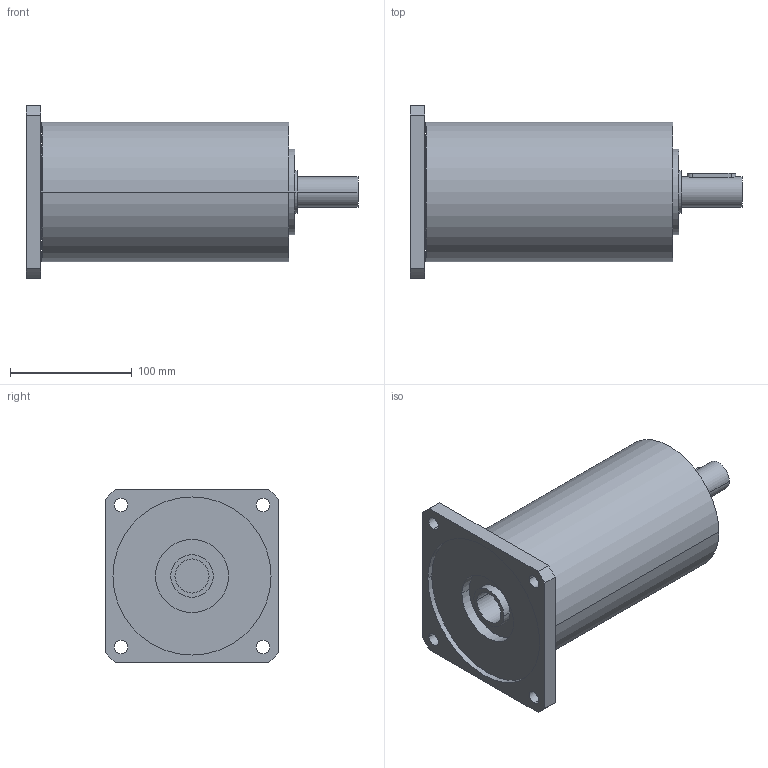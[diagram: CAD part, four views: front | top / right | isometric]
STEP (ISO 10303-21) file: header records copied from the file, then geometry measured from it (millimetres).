
FILE_DESCRIPTION(('CoCreate Modeling STEP Export'),'2;1');
FILE_NAME('GPR125_ig-48-64-80-100-140-196-245-343_25_B14_28_P08.stp','2014-08-26T14:22:49',(''),(''),'CoCreate Modeling STEP processor for AP214 (Solid Model)','CoCreate Modeling 16.00C 25-Feb-2009 (C) Parametric Technology GmbH','');
FILE_SCHEMA(('AUTOMOTIVE_DESIGN { 1 0 10303 214 1 1 1 1 }'));
Length unit declared in the file: millimetre
Products named in the file (2): GPR125_ig-48-64-80-100-140-196-245-343_25_B14_28_P08
Assembly tree (1 placements, depth 2):
  GPR125_ig-48-64-80-100-140-196-245-343_25_B14_28_P08
    GPR125_ig-48-64-80-100-140-196-245-343_25_B14_28_P08
Bounding box: 273 x 142 x 142 mm (x, y, z)
Volume: 2278353.3 mm3; surface area: 151495.8 mm2
Topology: 1 solids, 1 shells, 68 faces, 188 edges, 134 vertices
Faces by surface type: cylinder 42, plane 22, cone 4
Entity records: 1928 total; most frequent: ORIENTED_EDGE 372, CARTESIAN_POINT 363, DIRECTION 258, EDGE_CURVE 186, VERTEX_POINT 134, AXIS2_PLACEMENT_3D 97, EDGE_LOOP 90, FACE_OUTER_BOUND 68
